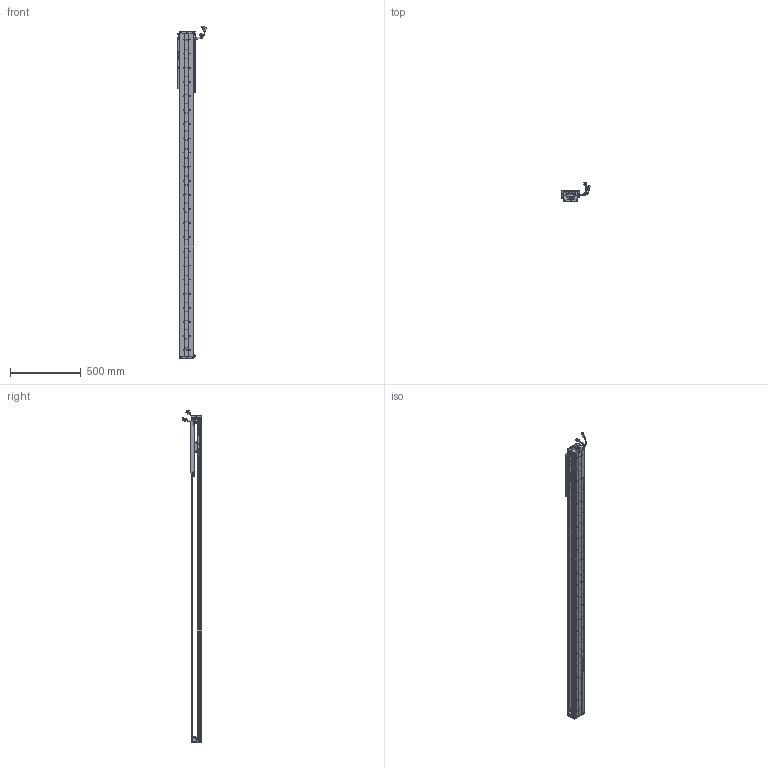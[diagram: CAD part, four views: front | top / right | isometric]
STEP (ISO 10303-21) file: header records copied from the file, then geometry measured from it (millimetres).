
FILE_DESCRIPTION (( 'STEP AP203' ), '1' );
FILE_NAME ('Z5-RY100D-1-L500-B-K.SLDASM_1850.step', '2021-05-17T03:34:08', ( '盈信电脑' ), ( '东莞市道滘镇水果街19号' ), 'SwSTEP 2.0', 'SolidWorks 2016', '' );
FILE_SCHEMA (( 'CONFIG_CONTROL_DESIGN' ));
Length unit declared in the file: millimetre
Products named in the file (36): 覜茼ん672; SCREW-M1.6-1; HOLDER0; SEAL; Z5-RY100D-500-倰第菁釱_1850; Z-RY100D詩湍奻揤裔; Z5-RY100铝滑块（21款）; SCREW-M1.6-2; SHIELDPLATE; SCREW-M1.6; 080黍杅芛假蚾釱21遴; 100-Z-臏賑輸盄裔(21遴); HARNESS-Part-2; 140蚥薯蝶輸; 榋妏寠巭燃_暯_M2_2; SCALE-Part-2; COVER; COVER-Part-1; PBU_SHEET; Z5-RY100-L500詩湍90mm遵_1850; Z-RY100D覜茼んえ; LABEL; PSLH080_PSLF2; 140雄赽晤鎢ん堤盄; Z-100詩湍傷裔啣; SCREW-M1.7; SCALE; SCREW-M1.6-3; Z5-RY100D-1-L500-B-K.SLDASM_1850; LABEL-Part-1; HARNESS-Part-1; SEAL-Part-1; SCALE-Part-1; SCREW-M1.7-1; HARNESS; Z-RY100D詩湍狟揤裔
Assembly tree (43 placements, depth 4):
  Z5-RY100D-1-L500-B-K.SLDASM_1850
    Z5-RY100D-500-倰第菁釱_1850
    Z5-RY100铝滑块（21款）
    PSLH080_PSLF2
      SCALE
        SCALE-Part-1
        SCALE-Part-2
      HARNESS
        HARNESS-Part-1
        HARNESS-Part-2
      LABEL
        LABEL-Part-1
      COVER
        COVER-Part-1
      SEAL
        SEAL-Part-1
      榋妏寠巭燃_暯_M2_2
      SHIELDPLATE
      SCREW-M1.7
      SCREW-M1.7-1
      PBU_SHEET
      SCREW-M1.6
      SCREW-M1.6-1
      SCREW-M1.6-2
      SCREW-M1.6-3
      HOLDER0
    080黍杅芛假蚾釱21遴
    Z-100詩湍傷裔啣  x2
    140蚥薯蝶輸  x2
    覜茼ん672  x3
    Z-RY100D覜茼んえ  x3
    100-Z-臏賑輸盄裔(21遴)
    140雄赽晤鎢ん堤盄
    Z5-RY100-L500詩湍90mm遵_1850
    Z-RY100D詩湍狟揤裔  x2
    Z-RY100D詩湍奻揤裔  x2
Bounding box: 205.84 x 136.11 x 2350.43 mm (x, y, z)
Volume: 4589388.7 mm3; surface area: 1765876.6 mm2
Topology: 38 solids, 38 shells, 2927 faces, 7921 edges, 5048 vertices
Faces by surface type: cylinder 1406, plane 1173, cone 226, torus 69, bspline 53
Entity records: 83703 total; most frequent: CARTESIAN_POINT 17535, DIRECTION 13463, ORIENTED_EDGE 12722, EDGE_CURVE 6361, AXIS2_PLACEMENT_3D 5044, VERTEX_POINT 4116, LINE 3375, VECTOR 3375
